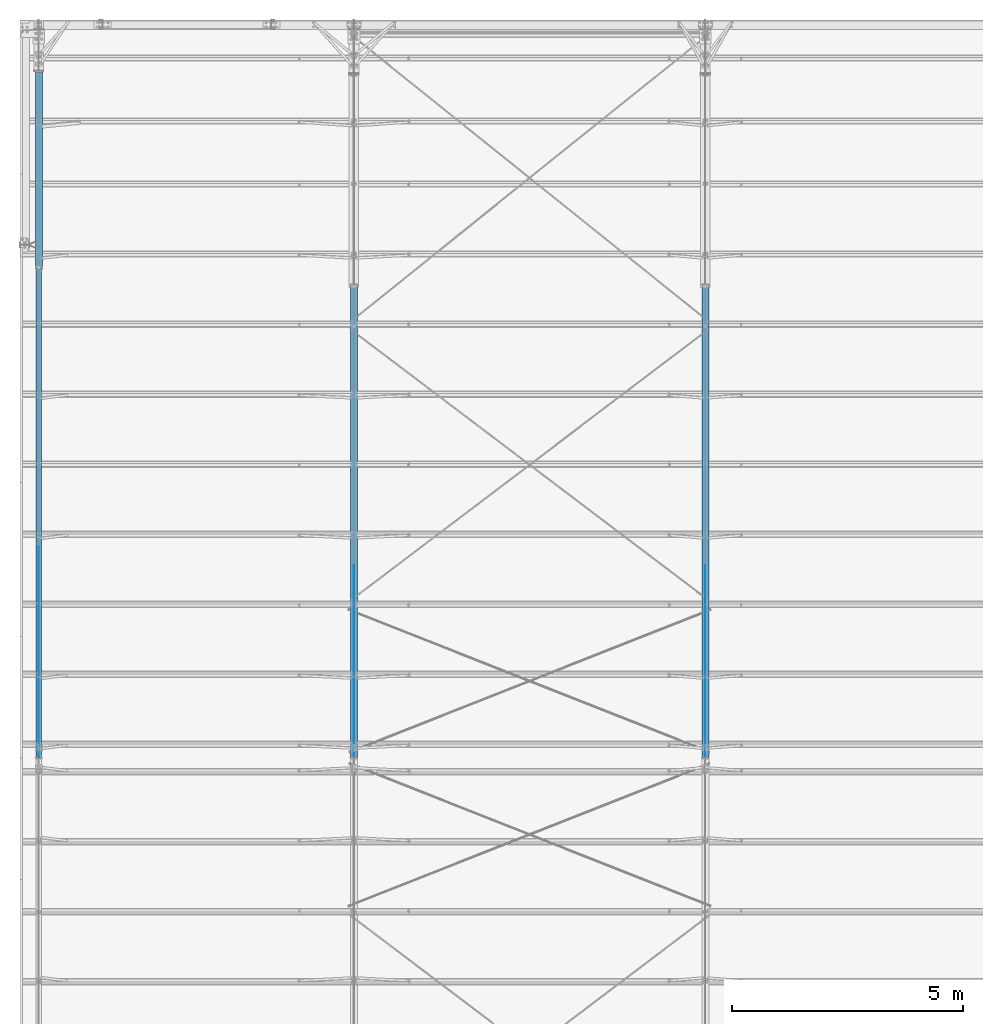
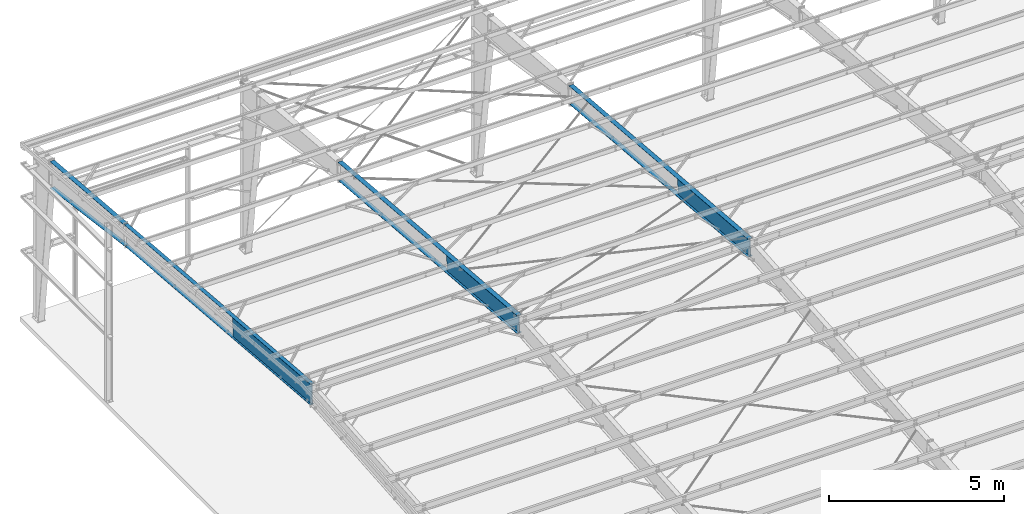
# One storey, part 54 of 185: 11 discrete accessories, 4 elements without a shape of their own.
"""IFC2X3 building model written with IfcOpenShell, lengths in millimetres."""

from ifc_helpers import new_model, si_unit, frame, origin_with_axes, origin_2d_with_axis, place, context, subcontext, project, spatial, rectangle, extrude, clip, halfspace, material, type_object, element, aggregate, save


model = new_model("IFC2X3")

# Units and contexts
model_context = context("Model", 3, precision=1e-05, world=origin_with_axes())
body_context = subcontext(model_context, "Body", "Model", "MODEL_VIEW")
ifc_project = project(units=[si_unit("LENGTHUNIT", "METRE", prefix="MILLI"), si_unit("AREAUNIT", "SQUARE_METRE"), si_unit("VOLUMEUNIT", "CUBIC_METRE"), si_unit("MASSUNIT", "GRAM", prefix="KILO"), si_unit("TIMEUNIT", "SECOND"), si_unit("PLANEANGLEUNIT", "RADIAN"), si_unit("SOLIDANGLEUNIT", "STERADIAN"), si_unit("THERMODYNAMICTEMPERATUREUNIT", "DEGREE_CELSIUS"), si_unit("LUMINOUSINTENSITYUNIT", "LUMEN")], contexts=[model_context])

# Site, building, storey
site_placement = place(None, origin_with_axes())
site = spatial("IfcSite", under=ifc_project, at=site_placement, Name="Undefined", CompositionType="ELEMENT")
building_placement = place(site_placement, origin_with_axes())
building = spatial("IfcBuilding", under=site, at=building_placement, Name="Undefined", CompositionType="ELEMENT")
storey_placement = place(building_placement, origin_with_axes())
storey = spatial("IfcBuildingStorey", under=building, at=storey_placement, Name="Undefined", CompositionType="ELEMENT", Elevation=0.0)

# Assembly, discrete accessory
assembly_1_placement = place(storey_placement, origin_with_axes())
assembly_1 = element("IfcElementAssembly", 1, at=assembly_1_placement, inside=storey, Name="Steel Assembly", AssemblyPlace="NOTDEFINED", PredefinedType="RIGID_FRAME")
ifc_material = material(Name="STEEL/55")
discrete_accessory_type_1 = type_object("IfcDiscreteAccessoryType", Name="Outside Flange")
discrete_accessory_1_placement = place(assembly_1_placement, frame((406.400000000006, 16011.7886694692, 7221.59393798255), z_axis=(-1.0, 0.0, 0.0), x_axis=(0.0, 0.996545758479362, -0.0830454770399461)))
discrete_accessory_1 = element("IfcDiscreteAccessory", 2, at=discrete_accessory_1_placement, type_object=discrete_accessory_type_1, material=ifc_material, Name="Outside Flange", ObjectType="FL1/4\"X5\"", context=body_context, shape_type="SweptSolid", body=[
    extrude(rectangle(XDim=6.35, YDim=127.0, at=origin_2d_with_axis()), frame((10685.8945647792, 0.0, 0.0), z_axis=(-1.0, 0.0, 0.0), x_axis=(0.0, -1.0, 0.0)), (0.0, 0.0, 1.0), 10685.9),
])

assembly_2_placement = place(storey_placement, origin_with_axes())
assembly_2 = element("IfcElementAssembly", 3, at=assembly_2_placement, inside=storey, Name="Steel Assembly", AssemblyPlace="NOTDEFINED", PredefinedType="RIGID_FRAME")
discrete_accessory_2_placement = place(assembly_2_placement, frame((406.399999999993, 26679.882329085, 6332.58612997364), z_axis=(-1.0, 0.0, 0.0), x_axis=(0.0, 0.996545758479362, -0.0830454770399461)))
discrete_accessory_2 = element("IfcDiscreteAccessory", 4, at=discrete_accessory_2_placement, type_object=discrete_accessory_type_1, material=ifc_material, Name="Outside Flange", ObjectType="FL1/4\"X6\"", context=body_context, shape_type="SweptSolid", body=[
    extrude(rectangle(XDim=6.35, YDim=152.4, at=origin_2d_with_axis()), frame((4214.4617713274, 0.0, 0.0), z_axis=(-1.0, 0.0, 0.0), x_axis=(0.0, -1.0, 0.0)), (0.0, 0.0, 1.0), 4214.5),
])

assembly_3_placement = place(storey_placement, origin_with_axes())
assembly_3 = element("IfcElementAssembly", 5, at=assembly_3_placement, inside=storey, Name="Steel Assembly", AssemblyPlace="NOTDEFINED", PredefinedType="RIGID_FRAME")
discrete_accessory_3_placement = place(assembly_3_placement, frame((14859.0, 16015.0269501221, 7220.48297948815), z_axis=(-1.0, 0.0, 0.0), x_axis=(0.0, 0.996545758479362, -0.0830454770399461)))
discrete_accessory_3 = element("IfcDiscreteAccessory", 6, at=discrete_accessory_3_placement, type_object=discrete_accessory_type_1, material=ifc_material, Name="Outside Flange", ObjectType="FL5/16\"X6\"", context=body_context, shape_type="SweptSolid", body=[
    extrude(rectangle(XDim=7.874, YDim=152.4, at=origin_2d_with_axis()), frame((10276.4296125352, 1.96160351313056e-12, 0.0), z_axis=(-1.0, 0.0, 0.0), x_axis=(0.0, -1.0, 0.0)), (0.0, 0.0, 1.0), 10276.4),
])

assembly_4_placement = place(storey_placement, origin_with_axes())
assembly_4 = element("IfcElementAssembly", 7, at=assembly_4_placement, inside=storey, Name="Steel Assembly", AssemblyPlace="NOTDEFINED", PredefinedType="RIGID_FRAME")
discrete_accessory_4_placement = place(assembly_4_placement, frame((7239.0, 16015.0269501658, 7220.48297950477), z_axis=(-1.0, 0.0, 0.0), x_axis=(0.0, 0.996545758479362, -0.0830454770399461)))
discrete_accessory_4 = element("IfcDiscreteAccessory", 8, at=discrete_accessory_4_placement, type_object=discrete_accessory_type_1, material=ifc_material, Name="Outside Flange", ObjectType="FL5/16\"X6\"", context=body_context, shape_type="SweptSolid", body=[
    extrude(rectangle(XDim=7.874, YDim=152.4, at=origin_2d_with_axis()), frame((10276.4296125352, 1.96160351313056e-12, 0.0), z_axis=(-1.0, 0.0, 0.0), x_axis=(0.0, -1.0, 0.0)), (0.0, 0.0, 1.0), 10276.4),
])

# Discrete accessory
discrete_accessory_type_2 = type_object("IfcDiscreteAccessoryType", Name="Inside Flange")
discrete_accessory_5_placement = place(assembly_1_placement, frame((406.400000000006, 16011.7886694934, 6501.55675549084), z_axis=(-1.0, 0.0, 0.0), x_axis=(0.0, 0.996545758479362, -0.0830454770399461)))
discrete_accessory_5 = element("IfcDiscreteAccessory", 9, at=discrete_accessory_5_placement, type_object=discrete_accessory_type_2, material=ifc_material, Name="Inside Flange", ObjectType="FL1/4\"X5\"", context=body_context, shape_type="SweptSolid", body=[
    extrude(rectangle(XDim=6.35, YDim=127.0, at=origin_2d_with_axis()), frame((10626.0987314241, 0.0, 0.0), z_axis=(-1.0, 0.0, 0.0), x_axis=(0.0, -1.0, 0.0)), (0.0, 0.0, 1.0), 10626.1),
])

discrete_accessory_6_placement = place(assembly_2_placement, frame((406.4000000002, 30879.5387973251, 5058.51776228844), z_axis=(1.0, 0.0, 0.0), x_axis=(0.0, -0.99153420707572, 0.129845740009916)))
discrete_accessory_6 = element("IfcDiscreteAccessory", 10, at=discrete_accessory_6_placement, type_object=discrete_accessory_type_2, material=ifc_material, Name="Inside Flange", ObjectType="FL5/16\"X6\"", context=body_context, shape_type="SweptSolid", body=[
    extrude(rectangle(XDim=7.874, YDim=152.4, at=origin_2d_with_axis()), frame((4295.52831753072, 1.81898940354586e-12, 0.0), z_axis=(-1.0, 0.0, 0.0), x_axis=(0.0, -1.0, 0.0)), (0.0, 0.0, 1.0), 4295.5),
])

aggregate(assembly_2, [discrete_accessory_2, discrete_accessory_6])

discrete_accessory_7_placement = place(assembly_3_placement, frame((14859.0000000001, 16015.0955042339, 6600.03460773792), z_axis=(-1.0, 0.0, 0.0), x_axis=(0.0, 0.996545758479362, -0.0830454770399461)))
discrete_accessory_7 = element("IfcDiscreteAccessory", 11, at=discrete_accessory_7_placement, type_object=discrete_accessory_type_2, material=ifc_material, Name="Inside Flange", ObjectType="FL3/8\"X6\"", context=body_context, shape_type="SweptSolid", body=[
    extrude(rectangle(XDim=9.525, YDim=152.4, at=origin_2d_with_axis()), frame((10224.8358624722, 0.0, 0.0), z_axis=(-1.0, 0.0, 0.0), x_axis=(0.0, -1.0, 0.0)), (0.0, 0.0, 1.0), 10224.8),
])

discrete_accessory_8_placement = place(assembly_4_placement, frame((7239.00000000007, 16015.0955042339, 6600.03460773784), z_axis=(-1.0, 0.0, 0.0), x_axis=(0.0, 0.996545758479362, -0.0830454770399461)))
discrete_accessory_8 = element("IfcDiscreteAccessory", 12, at=discrete_accessory_8_placement, type_object=discrete_accessory_type_2, material=ifc_material, Name="Inside Flange", ObjectType="FL3/8\"X6\"", context=body_context, shape_type="SweptSolid", body=[
    extrude(rectangle(XDim=9.525, YDim=152.4, at=origin_2d_with_axis()), frame((10224.8358624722, 0.0, 0.0), z_axis=(-1.0, 0.0, 0.0), x_axis=(0.0, -1.0, 0.0)), (0.0, 0.0, 1.0), 10224.8),
])

discrete_accessory_type_3 = type_object("IfcDiscreteAccessoryType", Name="Web")
discrete_accessory_9_placement = place(assembly_1_placement, frame((406.400000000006, 20556.0339867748, 6482.88823696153), z_axis=(0.0, 0.0830454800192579, 0.996545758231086), x_axis=(0.0, -0.996545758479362, 0.0830454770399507)))
discrete_accessory_9 = element("IfcDiscreteAccessory", 13, at=discrete_accessory_9_placement, type_object=discrete_accessory_type_3, material=ifc_material, Name="Web", ObjectType="PL3/16\"X28\"", context=body_context, shape_type="Clipping", body=[
    clip(extrude(rectangle(XDim=4.762, YDim=711.2, at=origin_2d_with_axis()), frame((4649.63740877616, 0.0, 0.0), z_axis=(-1.0, 0.0, 0.0), x_axis=(0.0, -1.0, 0.0)), (0.0, 0.0, 1.0), 4649.6), halfspace(frame((4589.96048226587, 0.0, 356.391007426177), z_axis=(-0.996545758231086, 0.0, 0.0830454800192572), x_axis=(0.0, -1.0, 0.0)), True)),
])

aggregate(assembly_1, [discrete_accessory_1, discrete_accessory_5, discrete_accessory_9])

discrete_accessory_10_placement = place(assembly_3_placement, frame((14859.0, 20155.3771358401, 6565.64664856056), z_axis=(0.0, 0.0830454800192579, 0.996545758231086), x_axis=(0.0, -0.996545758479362, 0.0830454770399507)))
discrete_accessory_10 = element("IfcDiscreteAccessory", 14, at=discrete_accessory_10_placement, type_object=discrete_accessory_type_3, material=ifc_material, Name="Web", ObjectType="PL3/16\"X24\"", context=body_context, shape_type="Clipping", body=[
    clip(extrude(rectangle(XDim=4.762, YDim=609.6, at=origin_2d_with_axis()), frame((4231.63776454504, 0.0, 5.87257709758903e-14), z_axis=(-1.0, 0.0, 0.0), x_axis=(0.0, -1.0, 0.0)), (0.0, 0.0, 1.0), 4231.6), halfspace(frame((4180.5175024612, 0.0, 305.854676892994), z_axis=(-0.996545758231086, 0.0, 0.0830454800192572), x_axis=(0.0, -1.0, 0.0)), True)),
])

aggregate(assembly_3, [discrete_accessory_3, discrete_accessory_7, discrete_accessory_10])

discrete_accessory_11_placement = place(assembly_4_placement, frame((7239.0, 20155.3771358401, 6565.64664856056), z_axis=(0.0, 0.0830454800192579, 0.996545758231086), x_axis=(0.0, -0.996545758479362, 0.0830454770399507)))
discrete_accessory_11 = element("IfcDiscreteAccessory", 15, at=discrete_accessory_11_placement, type_object=discrete_accessory_type_3, material=ifc_material, Name="Web", ObjectType="PL3/16\"X24\"", context=body_context, shape_type="Clipping", body=[
    clip(extrude(rectangle(XDim=4.762, YDim=609.6, at=origin_2d_with_axis()), frame((4231.63776454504, 0.0, 5.87257709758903e-14), z_axis=(-1.0, 0.0, 0.0), x_axis=(0.0, -1.0, 0.0)), (0.0, 0.0, 1.0), 4231.6), halfspace(frame((4180.5175024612, 0.0, 305.854676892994), z_axis=(-0.996545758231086, 0.0, 0.0830454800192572), x_axis=(0.0, -1.0, 0.0)), True)),
])

aggregate(assembly_4, [discrete_accessory_8, discrete_accessory_11, discrete_accessory_4])

save(model, "model.ifc")
